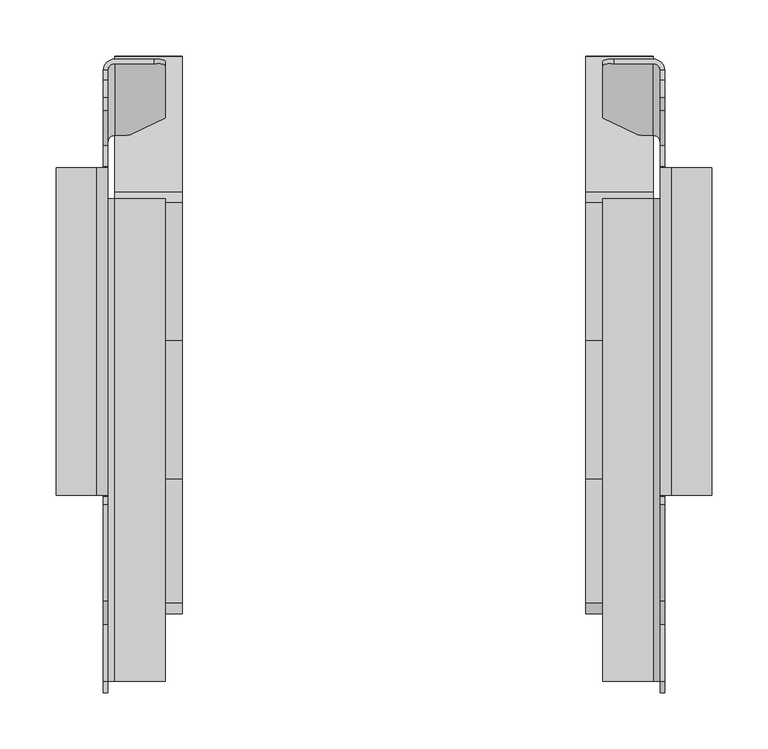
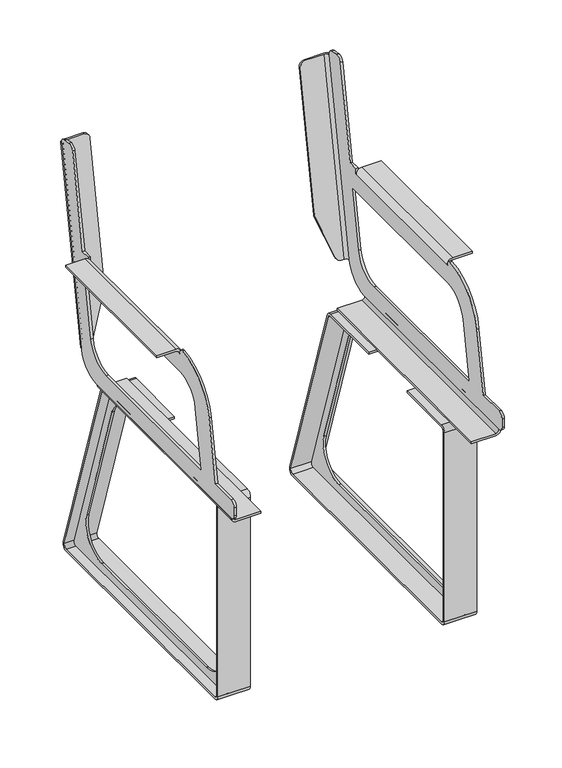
"""IFC4 building model written with IfcOpenShell, lengths in millimetres: furniture geometry, Roros Produkter - Trend - Chair - Armrests - 32974 : Roros Produkter - Trend - Chair - Armrests - 32974."""

from ifc_helpers import new_model, si_unit, point, frame, frame_2d, origin, place, context, project, spatial, polyline, circle_curve, trimmed, segment, composite_curve, outline, extrude, source, transform, mapped, element, save
from ifc_brep_helpers import plane_surface, cylinder_surface, revolved_surface, advanced_brep


def furniture_ebc10c41(model_context):
    return source(origin(), model_context, "Body", "SolidModel", [
        advanced_brep(
        [(-246.0, -257.3458129, 457.464), (-246.0, -236.7737044, 574.1342251), (-250.0, -236.7737044, 574.1342251), (-250.0, -257.3458129, 457.464), (-246.0, -307.8308404, 457.464), (-250.0, -307.8308404, 457.464), (-246.0, -317.8308404, 447.464), (-250.0, -317.8308404, 447.464), (-246.0, -317.8308404, 431.664), (-250.0, -317.8308404, 431.664), (-246.0, -307.8308404, 421.664), (-250.0, -307.8308404, 421.664), (-246.0, 121.742304, 421.664), (-250.0, 121.742304, 421.664), (-246.0, 123.242304, 421.664), (-250.0, 123.242304, 421.664), (-246.0, 171.5252579, 461.3391091), (-250.0, 171.5252579, 461.3391091), (-246.0, 171.7857301, 462.8163208), (-250.0, 171.7857301, 462.8163208), (-246.0, 227.5482115, 836.6487723), (-246.0, 235.6598072, 825.064213), (-250.0, 235.6598072, 825.064213), (-250.0, 227.5482115, 836.6487723), (-246.0, 211.988249, 839.3924135), (-250.0, 211.988249, 839.3924135), (-246.0, 200.4036897, 831.2808178), (-250.0, 200.4036897, 831.2808178), (-246.0, 169.0497871, 653.464), (-250.0, 169.0497871, 653.464), (-246.0, 150.5497871, 653.464), (-250.0, 150.5497871, 653.464), (-246.0, 150.5497871, 643.264), (-250.0, 150.5497871, 643.264), (-246.0, 149.0497871, 643.264), (-250.0, 149.0497871, 643.264), (-246.0, -143.7321601, 643.264), (-246.0, -142.2321601, 643.264), (-250.0, -142.2321601, 643.264), (-250.0, -143.7321601, 643.264), (-246.0, -143.7321601, 647.1509556), (-250.0, -143.7321601, 647.1509556), (-246.0, -150.2321601, 653.1300859), (-250.0, -150.2321601, 653.1300859), (-246.0, 160.938746, 607.464), (-246.0, -142.2321601, 607.464), (-250.0, -142.2321601, 607.464), (-250.0, 160.938746, 607.464), (-246.0, 141.775105, 498.7815911), (-250.0, 141.775105, 498.7815911), (-246.0, 92.5347173, 457.464), (-250.0, 92.5347173, 457.464), (-246.0, -210.6361888, 457.464), (-250.0, -210.6361888, 457.464), (-246.0, -191.4725478, 566.1464089), (-250.0, -191.4725478, 566.1464089), (-256.0, -142.2321601, 649.464), (-250.0, -142.2321601, 643.464), (-246.0, -142.2321601, 643.464), (-256.0, -142.2321601, 653.464), (-292.0, -142.2321601, 653.464), (-292.0, -142.2321601, 649.464), (-256.0, 149.0497871, 649.464), (-292.0, 149.0497871, 649.464), (-292.0, 149.0497871, 653.464), (-256.0, 149.0497871, 653.464), (-246.0, 149.0497871, 643.464), (-250.0, 149.0497871, 643.464), (-240.0, 245.7048463, 823.2930016), (-250.0, 235.8567688, 825.0294834), (-246.0, 235.8567688, 825.0294834), (-240.0, 241.7656153, 823.9875943), (-205.0, 241.7656153, 823.9875943), (-205.0, 245.7048463, 823.2930016), (-240.0, 177.8915382, 461.7397021), (-246.0, 171.9826917, 462.7815911), (-250.0, 171.9826917, 462.7815911), (-240.0, 181.8307692, 461.0451093), (-234.7989561, 181.8307692, 461.0451093), (-234.7989561, 177.8915382, 461.7397021), (-225.4034627, 179.0334251, 468.2156645), (-195.6045066, 193.2318427, 548.7388923), (-195.0, 193.8264376, 552.1110073), (-195.0, 240.0291335, 814.1395168), (-195.0, 197.7656686, 551.4164146), (-195.0, 243.9683646, 813.4449241), (-195.6045066, 197.1710737, 548.0442996), (-225.4034627, 182.9726561, 467.5210718)],
        [
            (0, 1),
            (1, 2),
            (2, 3),
            (3, 0),
            (4, 0),
            (3, 5),
            (5, 4),
            (6, 4, circle_curve(frame((-246.0, -307.8308404, 447.464), z_axis=(-1.0, 0.0, 0.0), x_axis=(0.0, -1.0, 0.0)), 10.0)),
            (5, 7, circle_curve(frame((-250.0, -307.8308404, 447.464), z_axis=(1.0, 0.0, 0.0), x_axis=(0.0, -1.0, 0.0)), 10.0)),
            (7, 6),
            (8, 6),
            (7, 9),
            (9, 8),
            (10, 8, circle_curve(frame((-246.0, -307.8308404, 431.664), z_axis=(-1.0, 0.0, 0.0), x_axis=(0.0, -0.7071067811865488, -0.7071067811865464)), 10.0)),
            (9, 11, circle_curve(frame((-250.0, -307.8308404, 431.664), z_axis=(1.0, 0.0, 0.0), x_axis=(0.0, -0.7071067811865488, -0.7071067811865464)), 10.0)),
            (11, 10),
            (12, 10),
            (11, 13),
            (13, 12),
            (14, 12),
            (13, 15),
            (15, 14),
            (16, 14, circle_curve(frame((-246.0, 122.6020398, 471.6599004), z_axis=(-1.0, 0.0, 0.0), x_axis=(0.0, -0.9784643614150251, 0.20641582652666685)), 50.0)),
            (15, 17, circle_curve(frame((-250.0, 122.6020398, 471.6599004), z_axis=(1.0, 0.0, 0.0), x_axis=(0.0, -0.9784643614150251, 0.20641582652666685)), 50.0)),
            (17, 16),
            (18, 16),
            (17, 19),
            (19, 18),
            (20, 21, circle_curve(frame((-246.0, 225.8117297, 826.8006948), z_axis=(-1.0, 0.0, 0.0), x_axis=(0.0, 0.8191520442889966, 0.5735764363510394)), 10.0)),
            (21, 22),
            (22, 23, circle_curve(frame((-250.0, 225.8117297, 826.8006948), z_axis=(1.0, 0.0, 0.0), x_axis=(0.0, 0.8191520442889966, 0.5735764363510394)), 10.0)),
            (23, 20),
            (24, 20),
            (23, 25),
            (25, 24),
            (26, 24, circle_curve(frame((-246.0, 210.2517672, 829.544336), z_axis=(-1.0, 0.0, 0.0), x_axis=(0.0, -0.9848077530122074, 0.17364817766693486)), 10.0)),
            (25, 27, circle_curve(frame((-250.0, 210.2517672, 829.544336), z_axis=(1.0, 0.0, 0.0), x_axis=(0.0, -0.9848077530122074, 0.17364817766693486)), 10.0)),
            (27, 26),
            (28, 26),
            (27, 29),
            (29, 28),
            (30, 28),
            (29, 31),
            (31, 30),
            (32, 30),
            (31, 33),
            (33, 32),
            (34, 32),
            (33, 35),
            (35, 34),
            (36, 37),
            (37, 38),
            (38, 39),
            (39, 36),
            (40, 36),
            (39, 41),
            (41, 40),
            (42, 40, circle_curve(frame((-246.0, -149.7321601, 647.1509556), z_axis=(-1.0, 0.0, 0.0), x_axis=(0.0, 0.6770032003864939, 0.7359800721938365)), 6.0)),
            (41, 43, circle_curve(frame((-250.0, -149.7321601, 647.1509556), z_axis=(1.0, 0.0, 0.0), x_axis=(0.0, 0.6770032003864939, 0.7359800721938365)), 6.0)),
            (43, 42),
            (1, 42, circle_curve(frame((-246.0, -142.2321601, 557.464), z_axis=(-1.0, 0.0, 0.0), x_axis=(0.0, -0.9848077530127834, 0.17364817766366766)), 96.0)),
            (43, 2, circle_curve(frame((-250.0, -142.2321601, 557.464), z_axis=(1.0, 0.0, 0.0), x_axis=(0.0, -0.9848077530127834, 0.17364817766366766)), 96.0)),
            (44, 45),
            (45, 46),
            (46, 47),
            (47, 44),
            (48, 44),
            (47, 49),
            (49, 48),
            (50, 48, circle_curve(frame((-246.0, 92.5347173, 507.464), z_axis=(1.0, 0.0, 0.0), x_axis=(0.0, -0.9848077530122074, 0.17364817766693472)), 50.0)),
            (49, 51, circle_curve(frame((-250.0, 92.5347173, 507.464), z_axis=(-1.0, 0.0, 0.0), x_axis=(0.0, -0.9848077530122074, 0.17364817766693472)), 50.0)),
            (51, 50),
            (52, 50),
            (51, 53),
            (53, 52),
            (54, 52),
            (53, 55),
            (55, 54),
            (45, 54, circle_curve(frame((-246.0, -142.2321601, 557.464), z_axis=(1.0, 0.0, 0.0), x_axis=(0.0, 0.984807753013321, -0.17364817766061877)), 50.0)),
            (55, 46, circle_curve(frame((-250.0, -142.2321601, 557.464), z_axis=(-1.0, 0.0, 0.0), x_axis=(0.0, 0.984807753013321, -0.17364817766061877)), 50.0)),
            (56, 57, circle_curve(frame((-256.0, -142.2321601, 643.464), z_axis=(0.0, 1.0, 0.0), x_axis=(1.0, 0.0, 0.0)), 6.0)),
            (57, 38),
            (37, 58),
            (58, 59, circle_curve(frame((-256.0, -142.2321601, 643.464), z_axis=(0.0, -1.0, 0.0), x_axis=(1.0, 0.0, 0.0)), 10.0)),
            (59, 60),
            (60, 61),
            (61, 56),
            (62, 63),
            (63, 64),
            (64, 65),
            (65, 66, circle_curve(frame((-256.0, 149.0497871, 643.464), z_axis=(0.0, 1.0, 0.0), x_axis=(1.0, 0.0, 0.0)), 10.0)),
            (66, 34),
            (35, 67),
            (67, 62, circle_curve(frame((-256.0, 149.0497871, 643.464), z_axis=(0.0, -1.0, 0.0), x_axis=(1.0, 0.0, 0.0)), 6.0)),
            (56, 62),
            (67, 57),
            (58, 66),
            (65, 59),
            (64, 60),
            (63, 61),
            (68, 69, circle_curve(frame((-240.0, 235.8567688, 825.0294834), z_axis=(0.0, 0.1736481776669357, 0.9848077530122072), x_axis=(0.0, 0.9848077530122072, -0.1736481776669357)), 10.0)),
            (69, 22),
            (21, 70),
            (70, 71, circle_curve(frame((-240.0, 235.8567688, 825.0294834), z_axis=(0.0, -0.1736481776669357, -0.9848077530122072), x_axis=(0.0, 0.9848077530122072, -0.1736481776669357)), 6.0)),
            (71, 72),
            (72, 73),
            (73, 68),
            (74, 75, circle_curve(frame((-240.0, 171.9826917, 462.7815911), z_axis=(0.0, 0.1736481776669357, 0.9848077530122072), x_axis=(0.0, 0.9848077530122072, -0.1736481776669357)), 6.0)),
            (75, 18),
            (19, 76),
            (76, 77, circle_curve(frame((-240.0, 171.9826917, 462.7815911), z_axis=(0.0, -0.1736481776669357, -0.9848077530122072), x_axis=(0.0, 0.9848077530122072, -0.1736481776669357)), 10.0)),
            (77, 78),
            (78, 79),
            (79, 74),
            (68, 77),
            (76, 69),
            (75, 70),
            (74, 71),
            (79, 80, circle_curve(frame((-234.7989561, 179.62802, 471.5877796), z_axis=(0.0, -0.9848077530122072, 0.1736481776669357), x_axis=(-1.0, 0.0, 0.0)), 10.0)),
            (80, 81),
            (81, 82, circle_curve(frame((-205.0, 193.8264376, 552.1110073), z_axis=(0.0, -0.9848077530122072, 0.1736481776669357), x_axis=(-1.0, 0.0, 0.0)), 10.0)),
            (82, 83),
            (83, 72, circle_curve(frame((-205.0, 240.0291335, 814.1395168), z_axis=(0.0, -0.9848077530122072, 0.1736481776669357), x_axis=(-1.0, 0.0, 0.0)), 10.0)),
            (82, 84),
            (84, 85),
            (85, 83),
            (73, 85, circle_curve(frame((-205.0, 243.9683646, 813.4449241), z_axis=(0.0, 0.9848077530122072, -0.1736481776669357), x_axis=(-1.0, 0.0, 0.0)), 10.0)),
            (84, 86, circle_curve(frame((-205.0, 197.7656686, 551.4164146), z_axis=(0.0, 0.9848077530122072, -0.1736481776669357), x_axis=(-1.0, 0.0, 0.0)), 10.0)),
            (86, 87),
            (87, 78, circle_curve(frame((-234.7989561, 183.567251, 470.8931869), z_axis=(0.0, 0.9848077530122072, -0.1736481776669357), x_axis=(-1.0, 0.0, 0.0)), 10.0)),
            (87, 80),
            (86, 81),
        ],
        [
            plane_surface(frame((-246.0, -236.7737044, 574.1342251), z_axis=(0.0, -0.9848077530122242, 0.17364817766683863), x_axis=(-1.0, 0.0, 0.0))),
            plane_surface(frame((-246.0, -257.3458129, 457.464), z_axis=(0.0, 0.0, 1.0), x_axis=(-1.0, 0.0, 0.0))),
            cylinder_surface(frame((-250.0, -307.8308404, 447.464), z_axis=(1.0, 0.0, 0.0), x_axis=(0.0, -1.0, 0.0)), 10.0),
            plane_surface(frame((-246.0, -317.8308404, 447.464), z_axis=(0.0, -1.0, 0.0), x_axis=(-1.0, 0.0, 0.0))),
            cylinder_surface(frame((-250.0, -307.8308404, 431.664), z_axis=(1.0, 0.0, 0.0), x_axis=(0.0, -0.7071067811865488, -0.7071067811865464)), 10.0),
            plane_surface(frame((-246.0, -307.8308404, 421.664), z_axis=(0.0, 0.0, -1.0), x_axis=(-1.0, 0.0, 0.0))),
            plane_surface(frame((-246.0, 121.742304, 421.664), z_axis=(0.0, 0.0, -1.0), x_axis=(-1.0, 0.0, 0.0))),
            cylinder_surface(frame((-250.0, 122.6020398, 471.6599004), z_axis=(1.0, 0.0, 0.0), x_axis=(0.0, -0.9784643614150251, 0.20641582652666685)), 50.0),
            plane_surface(frame((-246.0, 171.5252579, 461.3391091), z_axis=(0.0, 0.9848077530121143, -0.1736481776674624), x_axis=(-1.0, 0.0, 0.0))),
            cylinder_surface(frame((-250.0, 225.8117297, 826.8006948), z_axis=(1.0000000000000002, 0.0, 0.0), x_axis=(0.0, 0.8191520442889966, 0.5735764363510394)), 10.0),
            plane_surface(frame((-246.0, 227.5482115, 836.6487723), z_axis=(0.0, 0.1736481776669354, 0.9848077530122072), x_axis=(-1.0, 0.0, 0.0))),
            cylinder_surface(frame((-250.0, 210.2517672, 829.544336), z_axis=(1.0000000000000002, 0.0, 0.0), x_axis=(0.0, -0.9848077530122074, 0.17364817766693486)), 10.0),
            plane_surface(frame((-246.0, 200.4036897, 831.2808178), z_axis=(0.0, -0.9848077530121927, 0.17364817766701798), x_axis=(-1.0, 0.0, 0.0))),
            plane_surface(frame((-246.0, 169.0497871, 653.464), z_axis=(0.0, 0.0, 1.0), x_axis=(-1.0, 0.0, 0.0))),
            plane_surface(frame((-246.0, 150.5497871, 653.464), z_axis=(0.0, -1.0, 0.0), x_axis=(-1.0, 0.0, 0.0))),
            plane_surface(frame((-246.0, 150.5497871, 643.264), z_axis=(0.0, 0.0, 1.0), x_axis=(-1.0, 0.0, 0.0))),
            plane_surface(frame((-246.0, -142.2321601, 643.264), z_axis=(0.0, 0.0, 1.0), x_axis=(-1.0, 0.0, 0.0))),
            plane_surface(frame((-246.0, -143.7321601, 643.264), z_axis=(0.0, 1.0, 0.0), x_axis=(-1.0, 0.0, 0.0))),
            cylinder_surface(frame((-250.0, -149.7321601, 647.1509556), z_axis=(1.0, 0.0, 0.0), x_axis=(0.0, 0.6770032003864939, 0.7359800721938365)), 6.0),
            cylinder_surface(frame((-250.0, -142.2321601, 557.464), z_axis=(1.0000000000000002, 0.0, 0.0), x_axis=(0.0, -0.9848077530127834, 0.17364817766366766)), 96.0),
            plane_surface(frame((-246.0, -142.2321601, 607.464), z_axis=(0.0, 0.0, -1.0), x_axis=(-1.0, 0.0, 0.0))),
            plane_surface(frame((-246.0, 160.938746, 607.464), z_axis=(0.0, -0.9848077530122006, 0.17364817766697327), x_axis=(-1.0, 0.0, 0.0))),
            revolved_surface(polyline([(-250.0, 43.29432964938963, 516.1464088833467), (-246.0, 43.29432964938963, 516.1464088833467)]), (658.0, 92.5347173, 507.464), (-1.0, 0.0, 0.0)),
            plane_surface(frame((-246.0, 92.5347173, 457.464), z_axis=(0.0, 0.0, 1.0), x_axis=(-1.0, 0.0, 0.0))),
            plane_surface(frame((-246.0, -210.6361888, 457.464), z_axis=(0.0, 0.984807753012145, -0.1736481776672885), x_axis=(-1.0, 0.0, 0.0))),
            revolved_surface(polyline([(-250.00000000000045, -92.99177244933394, 548.7815911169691), (-246.00000000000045, -92.99177244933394, 548.7815911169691)]), (658.0, -142.2321601, 557.464), (-1.0000000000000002, 0.0, 0.0)),
            plane_surface(frame((-250.0, -142.2321601, 643.464), z_axis=(0.0, -1.0, 0.0), x_axis=(0.0, 0.0, -1.0))),
            plane_surface(frame((-250.0, 149.0497871, 643.464), z_axis=(0.0, 1.0, 0.0), x_axis=(0.0, 0.0, 1.0))),
            revolved_surface(polyline([(-250.0, 149.0497871, 643.464), (-250.0, -142.2321601, 643.464)]), (-256.0, 149.0497871, 643.464), (0.0, 1.0, 0.0)),
            cylinder_surface(frame((-256.0, 149.0497871, 643.464), z_axis=(0.0, -1.0, 0.0), x_axis=(1.0, 0.0, 0.0)), 10.0),
            plane_surface(frame((-256.0, -142.2321601, 653.464), z_axis=(0.0, 0.0, 1.0), x_axis=(0.0, 1.0, 0.0))),
            plane_surface(frame((-292.0, -142.2321601, 653.464), z_axis=(-1.0, 0.0, 0.0), x_axis=(0.0, 1.0, 0.0))),
            plane_surface(frame((-292.0, -142.2321601, 649.464), z_axis=(0.0, 0.0, -1.0), x_axis=(0.0, 1.0, 0.0))),
            plane_surface(frame((-240.0, 245.7048463, 823.2930016), z_axis=(0.0, 0.17364817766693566, 0.9848077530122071), x_axis=(-1.0, 0.0, 0.0))),
            plane_surface(frame((-240.0, 181.8307692, 461.0451093), z_axis=(0.0, -0.17364817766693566, -0.9848077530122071), x_axis=(1.0, 0.0, 0.0))),
            cylinder_surface(frame((-240.0, 171.9826917, 462.7815911), z_axis=(0.0, 0.1736481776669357, 0.9848077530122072), x_axis=(0.0, 0.9848077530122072, -0.1736481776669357)), 10.0),
            plane_surface(frame((-250.0, 235.8567688, 825.0294834), z_axis=(-1.0, 0.0, 0.0), x_axis=(0.0, -0.17364817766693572, -0.9848077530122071))),
            plane_surface(frame((-246.0, 219.7091835, 827.8767384), z_axis=(1.0000000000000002, 0.0, 0.0), x_axis=(0.0, -0.1736481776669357, -0.9848077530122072))),
            revolved_surface(polyline([(-240.0, 177.89153821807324, 461.7397020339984), (-240.0, 241.76561533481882, 823.9875943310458)]), (-240.0, 171.9826917, 462.7815911), (0.0, -0.1736481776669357, -0.9848077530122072)),
            plane_surface(frame((-240.0, 241.7656153, 823.9875943), z_axis=(0.0, -0.9848077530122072, 0.1736481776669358), x_axis=(0.0, -0.1736481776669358, -0.9848077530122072))),
            plane_surface(frame((-195.0, 241.7656153, 823.9875943), z_axis=(1.0000000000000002, 0.0, 0.0), x_axis=(0.0, -0.1736481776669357, -0.9848077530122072))),
            plane_surface(frame((-195.0, 245.7048463, 823.2930016), z_axis=(0.0, 0.9848077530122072, -0.1736481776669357), x_axis=(0.0, -0.1736481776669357, -0.9848077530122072))),
            cylinder_surface(frame((-234.7989561, 173.5222119, 472.6643983), z_axis=(0.0, -0.9848077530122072, 0.1736481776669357), x_axis=(-1.0, 0.0, 0.0)), 10.0),
            plane_surface(frame((-225.4034627, 198.6719598, 464.752861), z_axis=(0.9395493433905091, -0.05945948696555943, -0.3372115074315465), x_axis=(0.0, -0.984807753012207, 0.1736481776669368))),
            cylinder_surface(frame((-205.0, 187.7206295, 553.187626), z_axis=(0.0, -0.9848077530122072, 0.1736481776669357), x_axis=(-1.0, 0.0, 0.0)), 10.0),
            cylinder_surface(frame((-205.0, 233.9233255, 815.2161355), z_axis=(0.0, -0.9848077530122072, 0.1736481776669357), x_axis=(-1.0, 0.0, 0.0)), 10.0),
        ],
        [
            (0, [[1, 2, 3, 4]]),
            (1, [[5, -4, 6, 7]]),
            (2, [[8, -7, 9, 10]]),
            (3, [[11, -10, 12, 13]]),
            (4, [[14, -13, 15, 16]]),
            (5, [[17, -16, 18, 19]]),
            (6, [[20, -19, 21, 22]]),
            (7, [[23, -22, 24, 25]]),
            (8, [[26, -25, 27, 28]]),
            (9, [[29, 30, 31, 32]]),
            (10, [[33, -32, 34, 35]]),
            (11, [[36, -35, 37, 38]]),
            (12, [[39, -38, 40, 41]]),
            (13, [[42, -41, 43, 44]]),
            (14, [[45, -44, 46, 47]]),
            (15, [[48, -47, 49, 50]]),
            (16, [[51, 52, 53, 54]]),
            (17, [[55, -54, 56, 57]]),
            (18, [[58, -57, 59, 60]]),
            (19, [[61, -60, 62, -2]]),
            (20, [[63, 64, 65, 66]]),
            (21, [[67, -66, 68, 69]]),
            (22, [[70, -69, 71, 72]]),
            (23, [[73, -72, 74, 75]]),
            (24, [[76, -75, 77, 78]]),
            (25, [[79, -78, 80, -64]]),
            (26, [[81, 82, -52, 83, 84, 85, 86, 87]]),
            (27, [[88, 89, 90, 91, 92, -50, 93, 94]]),
            (28, [[-81, 95, -94, 96]]),
            (29, [[-84, 97, -91, 98]]),
            (30, [[-85, -98, -90, 99]]),
            (31, [[-86, -99, -89, 100]]),
            (32, [[-87, -100, -88, -95]]),
            (33, [[101, 102, -30, 103, 104, 105, 106, 107]]),
            (34, [[108, 109, -28, 110, 111, 112, 113, 114]]),
            (35, [[-101, 115, -111, 116]]),
            (36, [[-116, -110, -27, -24, -21, -18, -15, -12, -9, -6, -3, -62, -59, -56, -53, -82, -96, -93, -49, -46, -43, -40, -37, -34, -31, -102], [-80, -77, -74, -71, -68, -65]]),
            (37, [[117, -103, -29, -33, -36, -39, -42, -45, -48, -92, -97, -83, -51, -55, -58, -61, -1, -5, -8, -11, -14, -17, -20, -23, -26, -109], [-63, -67, -70, -73, -76, -79]]),
            (38, [[-104, -117, -108, 118]]),
            (39, [[-118, -114, 119, 120, 121, 122, 123, -105]]),
            (40, [[-122, 124, 125, 126]]),
            (41, [[-115, -107, 127, -125, 128, 129, 130, -112]]),
            (42, [[131, -119, -113, -130]]),
            (43, [[-131, -129, 132, -120]]),
            (44, [[-132, -128, -124, -121]]),
            (45, [[-106, -123, -126, -127]]),
        ],
    ),
        advanced_brep(
        [(245.4, -236.7737044, 574.1342251), (245.4, -257.3458129, 457.464), (249.4, -257.3458129, 457.464), (249.4, -236.7737044, 574.1342251), (245.4, -307.8308404, 457.464), (249.4, -307.8308404, 457.464), (245.4, -317.8308404, 447.464), (249.4, -317.8308404, 447.464), (245.4, -317.8308404, 431.664), (249.4, -317.8308404, 431.664), (245.4, -307.8308404, 421.664), (249.4, -307.8308404, 421.664), (245.4, 121.742304, 421.664), (249.4, 121.742304, 421.664), (245.4, 123.242304, 421.664), (249.4, 123.242304, 421.664), (245.4, 171.5252579, 461.3391091), (249.4, 171.5252579, 461.3391091), (245.4, 171.7857301, 462.8163208), (249.4, 171.7857301, 462.8163208), (245.4, 235.6598072, 825.064213), (245.4, 227.5482115, 836.6487723), (249.4, 227.5482115, 836.6487723), (249.4, 235.6598072, 825.064213), (245.4, 211.988249, 839.3924135), (249.4, 211.988249, 839.3924135), (245.4, 200.4036897, 831.2808178), (249.4, 200.4036897, 831.2808178), (245.4, 169.0497871, 653.464), (249.4, 169.0497871, 653.464), (245.4, 150.5497871, 653.464), (249.4, 150.5497871, 653.464), (245.4, 150.5497871, 643.264), (249.4, 150.5497871, 643.264), (245.4, 149.0497871, 643.264), (249.4, 149.0497871, 643.264), (245.4, -142.2321601, 643.264), (245.4, -143.7321601, 643.264), (249.4, -143.7321601, 643.264), (249.4, -142.2321601, 643.264), (245.4, -143.7321601, 647.1509556), (249.4, -143.7321601, 647.1509556), (245.4, -150.2321601, 653.1300859), (249.4, -150.2321601, 653.1300859), (245.4, -142.2321601, 607.464), (245.4, 160.938746, 607.464), (249.4, 160.938746, 607.464), (249.4, -142.2321601, 607.464), (245.4, 141.775105, 498.7815911), (249.4, 141.775105, 498.7815911), (245.4, 92.5347173, 457.464), (249.4, 92.5347173, 457.464), (245.4, -210.6361888, 457.464), (249.4, -210.6361888, 457.464), (245.4, -191.4725478, 566.1464089), (249.4, -191.4725478, 566.1464089), (255.4, -142.2321601, 649.464), (291.4, -142.2321601, 649.464), (291.4, -142.2321601, 653.464), (255.4, -142.2321601, 653.464), (245.4, -142.2321601, 643.464), (249.4, -142.2321601, 643.464), (255.4, 149.0497871, 649.464), (249.4, 149.0497871, 643.464), (245.4, 149.0497871, 643.464), (255.4, 149.0497871, 653.464), (291.4, 149.0497871, 653.464), (291.4, 149.0497871, 649.464), (239.4, 241.7656153, 823.9875943), (245.4, 235.8567688, 825.0294834), (249.4, 235.8567688, 825.0294834), (239.4, 245.7048463, 823.2930016), (204.4, 245.7048463, 823.2930016), (204.4, 241.7656153, 823.9875943), (239.4, 181.8307692, 461.0451093), (249.4, 171.9826917, 462.7815911), (245.4, 171.9826917, 462.7815911), (239.4, 177.8915382, 461.7397021), (234.1989561, 177.8915382, 461.7397021), (234.1989561, 181.8307692, 461.0451093), (194.4, 240.0291335, 814.1395168), (194.4, 193.8264376, 552.1110073), (195.0045066, 193.2318427, 548.7388923), (224.8034627, 179.0334251, 468.2156645), (194.4, 243.9683646, 813.4449241), (194.4, 197.7656686, 551.4164146), (224.8034627, 182.9726561, 467.5210718), (195.0045066, 197.1710737, 548.0442996)],
        [
            (0, 1),
            (1, 2),
            (2, 3),
            (3, 0),
            (1, 4),
            (4, 5),
            (5, 2),
            (4, 6, circle_curve(frame((245.4, -307.8308404, 447.464), z_axis=(1.0, 0.0, 0.0), x_axis=(0.0, -1.0, 0.0)), 10.0)),
            (6, 7),
            (7, 5, circle_curve(frame((249.4, -307.8308404, 447.464), z_axis=(-1.0, 0.0, 0.0), x_axis=(0.0, -1.0, 0.0)), 10.0)),
            (6, 8),
            (8, 9),
            (9, 7),
            (8, 10, circle_curve(frame((245.4, -307.8308404, 431.664), z_axis=(1.0, 0.0, 0.0), x_axis=(0.0, -0.7071067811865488, -0.7071067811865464)), 10.0)),
            (10, 11),
            (11, 9, circle_curve(frame((249.4, -307.8308404, 431.664), z_axis=(-1.0, 0.0, 0.0), x_axis=(0.0, -0.7071067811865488, -0.7071067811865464)), 10.0)),
            (10, 12),
            (12, 13),
            (13, 11),
            (12, 14),
            (14, 15),
            (15, 13),
            (14, 16, circle_curve(frame((245.4, 122.6020398, 471.6599004), z_axis=(1.0, 0.0, 0.0), x_axis=(0.0, -0.9784643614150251, 0.20641582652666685)), 50.0)),
            (16, 17),
            (17, 15, circle_curve(frame((249.4, 122.6020398, 471.6599004), z_axis=(-1.0, 0.0, 0.0), x_axis=(0.0, -0.9784643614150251, 0.20641582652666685)), 50.0)),
            (16, 18),
            (18, 19),
            (19, 17),
            (20, 21, circle_curve(frame((245.4, 225.8117297, 826.8006948), z_axis=(1.0, 0.0, 0.0), x_axis=(0.0, 0.8191520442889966, 0.5735764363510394)), 10.0)),
            (21, 22),
            (22, 23, circle_curve(frame((249.4, 225.8117297, 826.8006948), z_axis=(-1.0, 0.0, 0.0), x_axis=(0.0, 0.8191520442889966, 0.5735764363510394)), 10.0)),
            (23, 20),
            (21, 24),
            (24, 25),
            (25, 22),
            (24, 26, circle_curve(frame((245.4, 210.2517672, 829.544336), z_axis=(1.0, 0.0, 0.0), x_axis=(0.0, -0.9848077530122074, 0.17364817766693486)), 10.0)),
            (26, 27),
            (27, 25, circle_curve(frame((249.4, 210.2517672, 829.544336), z_axis=(-1.0, 0.0, 0.0), x_axis=(0.0, -0.9848077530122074, 0.17364817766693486)), 10.0)),
            (26, 28),
            (28, 29),
            (29, 27),
            (28, 30),
            (30, 31),
            (31, 29),
            (30, 32),
            (32, 33),
            (33, 31),
            (32, 34),
            (34, 35),
            (35, 33),
            (36, 37),
            (37, 38),
            (38, 39),
            (39, 36),
            (37, 40),
            (40, 41),
            (41, 38),
            (40, 42, circle_curve(frame((245.4, -149.7321601, 647.1509556), z_axis=(1.0, 0.0, 0.0), x_axis=(0.0, 0.6770032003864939, 0.7359800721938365)), 6.0)),
            (42, 43),
            (43, 41, circle_curve(frame((249.4, -149.7321601, 647.1509556), z_axis=(-1.0, 0.0, 0.0), x_axis=(0.0, 0.6770032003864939, 0.7359800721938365)), 6.0)),
            (42, 0, circle_curve(frame((245.4, -142.2321601, 557.464), z_axis=(1.0, 0.0, 0.0), x_axis=(0.0, -0.9848077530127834, 0.17364817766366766)), 96.0)),
            (3, 43, circle_curve(frame((249.4, -142.2321601, 557.464), z_axis=(-1.0, 0.0, 0.0), x_axis=(0.0, -0.9848077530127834, 0.17364817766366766)), 96.0)),
            (44, 45),
            (45, 46),
            (46, 47),
            (47, 44),
            (45, 48),
            (48, 49),
            (49, 46),
            (48, 50, circle_curve(frame((245.4, 92.5347173, 507.464), z_axis=(-1.0, 0.0, 0.0), x_axis=(0.0, -0.9848077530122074, 0.17364817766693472)), 50.0)),
            (50, 51),
            (51, 49, circle_curve(frame((249.4, 92.5347173, 507.464), z_axis=(1.0, 0.0, 0.0), x_axis=(0.0, -0.9848077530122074, 0.17364817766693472)), 50.0)),
            (50, 52),
            (52, 53),
            (53, 51),
            (52, 54),
            (54, 55),
            (55, 53),
            (54, 44, circle_curve(frame((245.4, -142.2321601, 557.464), z_axis=(-1.0, 0.0, 0.0), x_axis=(0.0, 0.984807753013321, -0.17364817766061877)), 50.0)),
            (47, 55, circle_curve(frame((249.4, -142.2321601, 557.464), z_axis=(1.0, 0.0, 0.0), x_axis=(0.0, 0.984807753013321, -0.17364817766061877)), 50.0)),
            (56, 57),
            (57, 58),
            (58, 59),
            (59, 60, circle_curve(frame((255.4, -142.2321601, 643.464), z_axis=(0.0, -1.0, 0.0), x_axis=(-1.0, 0.0, 0.0)), 10.0)),
            (60, 36),
            (39, 61),
            (61, 56, circle_curve(frame((255.4, -142.2321601, 643.464), z_axis=(0.0, 1.0, 0.0), x_axis=(-1.0, 0.0, 0.0)), 6.0)),
            (62, 63, circle_curve(frame((255.4, 149.0497871, 643.464), z_axis=(0.0, -1.0, 0.0), x_axis=(-1.0, 0.0, 0.0)), 6.0)),
            (63, 35),
            (34, 64),
            (64, 65, circle_curve(frame((255.4, 149.0497871, 643.464), z_axis=(0.0, 1.0, 0.0), x_axis=(-1.0, 0.0, 0.0)), 10.0)),
            (65, 66),
            (66, 67),
            (67, 62),
            (61, 63),
            (62, 56),
            (59, 65),
            (64, 60),
            (58, 66),
            (57, 67),
            (68, 69, circle_curve(frame((239.4, 235.8567688, 825.0294834), z_axis=(0.0, -0.1736481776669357, -0.9848077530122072), x_axis=(0.0, 0.9848077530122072, -0.1736481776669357)), 6.0)),
            (69, 20),
            (23, 70),
            (70, 71, circle_curve(frame((239.4, 235.8567688, 825.0294834), z_axis=(0.0, 0.1736481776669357, 0.9848077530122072), x_axis=(0.0, 0.9848077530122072, -0.1736481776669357)), 10.0)),
            (71, 72),
            (72, 73),
            (73, 68),
            (74, 75, circle_curve(frame((239.4, 171.9826917, 462.7815911), z_axis=(0.0, -0.1736481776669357, -0.9848077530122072), x_axis=(0.0, 0.9848077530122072, -0.1736481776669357)), 10.0)),
            (75, 19),
            (18, 76),
            (76, 77, circle_curve(frame((239.4, 171.9826917, 462.7815911), z_axis=(0.0, 0.1736481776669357, 0.9848077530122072), x_axis=(0.0, 0.9848077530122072, -0.1736481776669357)), 6.0)),
            (77, 78),
            (78, 79),
            (79, 74),
            (70, 75),
            (74, 71),
            (69, 76),
            (68, 77),
            (73, 80, circle_curve(frame((204.4, 240.0291335, 814.1395168), z_axis=(0.0, -0.9848077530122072, 0.1736481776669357), x_axis=(1.0, 0.0, 0.0)), 10.0)),
            (80, 81),
            (81, 82, circle_curve(frame((204.4, 193.8264376, 552.1110073), z_axis=(0.0, -0.9848077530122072, 0.1736481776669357), x_axis=(1.0, 0.0, 0.0)), 10.0)),
            (82, 83),
            (83, 78, circle_curve(frame((234.1989561, 179.62802, 471.5877796), z_axis=(0.0, -0.9848077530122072, 0.1736481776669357), x_axis=(1.0, 0.0, 0.0)), 10.0)),
            (80, 84),
            (84, 85),
            (85, 81),
            (79, 86, circle_curve(frame((234.1989561, 183.567251, 470.8931869), z_axis=(0.0, 0.9848077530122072, -0.1736481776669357), x_axis=(1.0, 0.0, 0.0)), 10.0)),
            (86, 87),
            (87, 85, circle_curve(frame((204.4, 197.7656686, 551.4164146), z_axis=(0.0, 0.9848077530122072, -0.1736481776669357), x_axis=(1.0, 0.0, 0.0)), 10.0)),
            (84, 72, circle_curve(frame((204.4, 243.9683646, 813.4449241), z_axis=(0.0, 0.9848077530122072, -0.1736481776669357), x_axis=(1.0, 0.0, 0.0)), 10.0)),
            (83, 86),
            (82, 87),
        ],
        [
            plane_surface(frame((245.4, -257.3458129, 457.464), z_axis=(0.0, -0.9848077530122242, 0.17364817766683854), x_axis=(1.0, 0.0, 0.0))),
            plane_surface(frame((245.4, -307.8308404, 457.464), z_axis=(0.0, 0.0, 1.0), x_axis=(1.0, 0.0, 0.0))),
            cylinder_surface(frame((249.4, -307.8308404, 447.464), z_axis=(-1.0, 0.0, 0.0), x_axis=(0.0, -1.0, 0.0)), 10.0),
            plane_surface(frame((245.4, -317.8308404, 431.664), z_axis=(0.0, -1.0, 0.0), x_axis=(1.0, 0.0, 0.0))),
            cylinder_surface(frame((249.4, -307.8308404, 431.664), z_axis=(-1.0, 0.0, 0.0), x_axis=(0.0, -0.7071067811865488, -0.7071067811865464)), 10.0),
            plane_surface(frame((245.4, 121.742304, 421.664), z_axis=(0.0, 0.0, -1.0), x_axis=(1.0, 0.0, 0.0))),
            plane_surface(frame((245.4, 123.242304, 421.664), z_axis=(0.0, 0.0, -1.0), x_axis=(1.0, 0.0, 0.0))),
            cylinder_surface(frame((249.4, 122.6020398, 471.6599004), z_axis=(-1.0, 0.0, 0.0), x_axis=(0.0, -0.9784643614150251, 0.20641582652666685)), 50.0),
            plane_surface(frame((245.4, 171.7857301, 462.8163208), z_axis=(0.0, 0.9848077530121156, -0.1736481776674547), x_axis=(1.0, 0.0, 0.0))),
            cylinder_surface(frame((249.4, 225.8117297, 826.8006948), z_axis=(-1.0000000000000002, 0.0, 0.0), x_axis=(0.0, 0.8191520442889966, 0.5735764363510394)), 10.0),
            plane_surface(frame((245.4, 211.988249, 839.3924135), z_axis=(0.0, 0.1736481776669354, 0.9848077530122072), x_axis=(1.0, 0.0, 0.0))),
            cylinder_surface(frame((249.4, 210.2517672, 829.544336), z_axis=(-1.0000000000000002, 0.0, 0.0), x_axis=(0.0, -0.9848077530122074, 0.17364817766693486)), 10.0),
            plane_surface(frame((245.4, 169.0497871, 653.464), z_axis=(0.0, -0.9848077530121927, 0.1736481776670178), x_axis=(1.0, 0.0, 0.0))),
            plane_surface(frame((245.4, 150.5497871, 653.464), z_axis=(0.0, 0.0, 1.0), x_axis=(1.0, 0.0, 0.0))),
            plane_surface(frame((245.4, 150.5497871, 643.264), z_axis=(0.0, -1.0, 0.0), x_axis=(1.0, 0.0, 0.0))),
            plane_surface(frame((245.4, 149.0497871, 643.264), z_axis=(0.0, 0.0, 1.0), x_axis=(1.0, 0.0, 0.0))),
            plane_surface(frame((245.4, -143.7321601, 643.264), z_axis=(0.0, 0.0, 1.0), x_axis=(1.0, 0.0, 0.0))),
            plane_surface(frame((245.4, -143.7321601, 647.1509556), z_axis=(0.0, 1.0, 0.0), x_axis=(1.0, 0.0, 0.0))),
            cylinder_surface(frame((249.4, -149.7321601, 647.1509556), z_axis=(-1.0, 0.0, 0.0), x_axis=(0.0, 0.6770032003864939, 0.7359800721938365)), 6.0),
            cylinder_surface(frame((249.4, -142.2321601, 557.464), z_axis=(-1.0000000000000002, 0.0, 0.0), x_axis=(0.0, -0.9848077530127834, 0.17364817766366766)), 96.0),
            plane_surface(frame((245.4, 160.938746, 607.464), z_axis=(0.0, 0.0, -1.0), x_axis=(1.0, 0.0, 0.0))),
            plane_surface(frame((245.4, 141.775105, 498.7815911), z_axis=(0.0, -0.9848077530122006, 0.17364817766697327), x_axis=(1.0, 0.0, 0.0))),
            revolved_surface(polyline([(249.39999999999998, 43.29432964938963, 516.1464088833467), (245.39999999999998, 43.29432964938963, 516.1464088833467)]), (-658.6, 92.5347173, 507.464), (1.0, 0.0, 0.0)),
            plane_surface(frame((245.4, -210.6361888, 457.464), z_axis=(0.0, 0.0, 1.0), x_axis=(1.0, 0.0, 0.0))),
            plane_surface(frame((245.4, -191.4725478, 566.1464089), z_axis=(0.0, 0.984807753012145, -0.17364817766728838), x_axis=(1.0, 0.0, 0.0))),
            revolved_surface(polyline([(249.40000000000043, -92.99177244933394, 548.7815911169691), (245.40000000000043, -92.99177244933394, 548.7815911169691)]), (-658.6, -142.2321601, 557.464), (1.0000000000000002, 0.0, 0.0)),
            plane_surface(frame((291.4, -142.2321601, 649.464), z_axis=(0.0, -1.0, 0.0), x_axis=(1.0, 0.0, 0.0))),
            plane_surface(frame((291.4, 149.0497871, 649.464), z_axis=(0.0, 1.0, 0.0), x_axis=(-1.0, 0.0, 0.0))),
            revolved_surface(polyline([(249.4, 149.0497871, 643.464), (249.4, -142.2321601, 643.464)]), (255.4, 149.0497871, 643.464), (0.0, 1.0, 0.0)),
            cylinder_surface(frame((255.4, 149.0497871, 643.464), z_axis=(0.0, -1.0, 0.0), x_axis=(-1.0, 0.0, 0.0)), 10.0),
            plane_surface(frame((291.4, -142.2321601, 653.464), z_axis=(0.0, 0.0, 1.0), x_axis=(0.0, 1.0, 0.0))),
            plane_surface(frame((291.4, -142.2321601, 649.464), z_axis=(1.0, 0.0, 0.0), x_axis=(0.0, 1.0, 0.0))),
            plane_surface(frame((255.4, -142.2321601, 649.464), z_axis=(0.0, 0.0, -1.0), x_axis=(0.0, 1.0, 0.0))),
            plane_surface(frame((194.4, 245.7048463, 823.2930016), z_axis=(0.0, 0.1736481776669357, 0.9848077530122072), x_axis=(-1.0, 0.0, 0.0))),
            plane_surface(frame((194.4, 181.8307692, 461.0451093), z_axis=(0.0, -0.1736481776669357, -0.9848077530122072), x_axis=(1.0, 0.0, 0.0))),
            cylinder_surface(frame((239.4, 171.9826917, 462.7815911), z_axis=(0.0, 0.1736481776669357, 0.9848077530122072), x_axis=(0.0, 0.9848077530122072, -0.1736481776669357)), 10.0),
            plane_surface(frame((249.4, 219.7091835, 827.8767384), z_axis=(1.0000000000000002, 0.0, 0.0), x_axis=(0.0, -0.17364817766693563, -0.9848077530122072))),
            plane_surface(frame((245.4, 235.8567688, 825.0294834), z_axis=(-1.0000000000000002, 0.0, 0.0), x_axis=(0.0, -0.1736481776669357, -0.9848077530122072))),
            revolved_surface(polyline([(239.4, 177.89153821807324, 461.7397020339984), (239.4, 241.76561533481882, 823.9875943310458)]), (239.4, 171.9826917, 462.7815911), (0.0, -0.1736481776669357, -0.9848077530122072)),
            plane_surface(frame((194.4, 241.7656153, 823.9875943), z_axis=(0.0, -0.9848077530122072, 0.17364817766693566), x_axis=(0.0, -0.17364817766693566, -0.9848077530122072))),
            plane_surface(frame((194.4, 245.7048463, 823.2930016), z_axis=(-1.0000000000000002, 0.0, 0.0), x_axis=(0.0, -0.17364817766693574, -0.9848077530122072))),
            plane_surface(frame((239.4, 245.7048463, 823.2930016), z_axis=(0.0, 0.9848077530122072, -0.17364817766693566), x_axis=(0.0, -0.17364817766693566, -0.9848077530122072))),
            cylinder_surface(frame((234.1989561, 173.5222119, 472.6643983), z_axis=(0.0, -0.9848077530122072, 0.1736481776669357), x_axis=(1.0, 0.0, 0.0)), 10.0),
            plane_surface(frame((195.0045066, 212.8703774, 545.2760887), z_axis=(-0.9395493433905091, -0.059459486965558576, -0.3372115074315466), x_axis=(0.0, -0.9848077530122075, 0.1736481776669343))),
            cylinder_surface(frame((204.4, 187.7206295, 553.187626), z_axis=(0.0, -0.9848077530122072, 0.1736481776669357), x_axis=(1.0, 0.0, 0.0)), 10.0),
            cylinder_surface(frame((204.4, 233.9233255, 815.2161355), z_axis=(0.0, -0.9848077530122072, 0.1736481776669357), x_axis=(1.0, 0.0, 0.0)), 10.0),
        ],
        [
            (0, [[1, 2, 3, 4]]),
            (1, [[5, 6, 7, -2]]),
            (2, [[8, 9, 10, -6]]),
            (3, [[11, 12, 13, -9]]),
            (4, [[14, 15, 16, -12]]),
            (5, [[17, 18, 19, -15]]),
            (6, [[20, 21, 22, -18]]),
            (7, [[23, 24, 25, -21]]),
            (8, [[26, 27, 28, -24]]),
            (9, [[29, 30, 31, 32]]),
            (10, [[33, 34, 35, -30]]),
            (11, [[36, 37, 38, -34]]),
            (12, [[39, 40, 41, -37]]),
            (13, [[42, 43, 44, -40]]),
            (14, [[45, 46, 47, -43]]),
            (15, [[48, 49, 50, -46]]),
            (16, [[51, 52, 53, 54]]),
            (17, [[55, 56, 57, -52]]),
            (18, [[58, 59, 60, -56]]),
            (19, [[61, -4, 62, -59]]),
            (20, [[63, 64, 65, 66]]),
            (21, [[67, 68, 69, -64]]),
            (22, [[70, 71, 72, -68]]),
            (23, [[73, 74, 75, -71]]),
            (24, [[76, 77, 78, -74]]),
            (25, [[79, -66, 80, -77]]),
            (26, [[81, 82, 83, 84, 85, -54, 86, 87]]),
            (27, [[88, 89, -49, 90, 91, 92, 93, 94]]),
            (28, [[-87, 95, -88, 96]]),
            (29, [[-84, 97, -91, 98]]),
            (30, [[-83, 99, -92, -97]]),
            (31, [[-82, 100, -93, -99]]),
            (32, [[-81, -96, -94, -100]]),
            (33, [[101, 102, -32, 103, 104, 105, 106, 107]]),
            (34, [[108, 109, -27, 110, 111, 112, 113, 114]]),
            (35, [[-104, 115, -108, 116]]),
            (36, [[-115, -103, -31, -35, -38, -41, -44, -47, -50, -89, -95, -86, -53, -57, -60, -62, -3, -7, -10, -13, -16, -19, -22, -25, -28, -109], [-65, -69, -72, -75, -78, -80]]),
            (37, [[117, -110, -26, -23, -20, -17, -14, -11, -8, -5, -1, -61, -58, -55, -51, -85, -98, -90, -48, -45, -42, -39, -36, -33, -29, -102], [-79, -76, -73, -70, -67, -63]]),
            (38, [[-101, 118, -111, -117]]),
            (39, [[-118, -107, 119, 120, 121, 122, 123, -112]]),
            (40, [[-120, 124, 125, 126]]),
            (41, [[-116, -114, 127, 128, 129, -125, 130, -105]]),
            (42, [[131, -127, -113, -123]]),
            (43, [[-131, -122, 132, -128]]),
            (44, [[-132, -121, -126, -129]]),
            (45, [[-106, -130, -124, -119]]),
        ],
    ),
        extrude(outline(composite_curve([segment(polyline([(428.7988272, 245.4), (421.464, 245.4)]), True, "CONTINUOUS"), segment(trimmed(circle_curve(frame_2d((421.464, 239.4)), 6.0), [point((421.464, 245.4))], [point((415.464, 239.4))], True, "CARTESIAN"), True, "CONTINUOUS"), segment(polyline([(415.464, 239.4), (415.464, 194.4), (411.464, 194.4), (411.464, 239.4)]), True, "CONTINUOUS"), segment(trimmed(circle_curve(frame_2d((421.464, 239.4)), 10.0), [point((411.464, 239.4))], [point((421.464, 249.4))], False, "CARTESIAN"), True, "CONTINUOUS"), segment(polyline([(421.464, 249.4), (428.7988272, 249.4), (428.7988272, 245.4)]), True, "CONTINUOUS")], self_intersect=False)), frame((0.0, -307.8308404, 0.0), z_axis=(0.0, 1.0, 0.0), x_axis=(0.0, 0.0, 1.0)), (0.0, 0.0, 1.0), 429.5731445),
        extrude(outline(composite_curve([segment(trimmed(circle_curve(frame_2d((238.4053404, 31.7)), 6.0), [point((244.1116795, 33.554102))], [point((238.4053404, 25.7))], False, "CARTESIAN"), True, "CONTINUOUS"), segment(polyline([(238.4053404, 25.7), (-237.8308404, 25.7)]), True, "CONTINUOUS"), segment(trimmed(circle_curve(frame_2d((-237.8308404, 31.7)), 6.0), [point((-237.8308404, 25.7))], [point((-243.8308404, 31.7))], False, "CARTESIAN"), True, "CONTINUOUS"), segment(polyline([(-243.8308404, 31.7), (-243.8308404, 401.464)]), True, "CONTINUOUS"), segment(trimmed(circle_curve(frame_2d((-237.8308404, 401.464)), 6.0), [point((-243.8308404, 401.464))], [point((-237.8308404, 407.464))], False, "CARTESIAN"), True, "CONTINUOUS"), segment(polyline([(-237.8308404, 407.464), (-127.8308404, 407.464), (-127.8308404, 392.464), (-178.8308404, 392.464)]), True, "CONTINUOUS"), segment(trimmed(circle_curve(frame_2d((-178.8308404, 342.464)), 50.0), [point((-178.8308404, 392.464))], [point((-228.8308404, 342.464))], True, "CARTESIAN"), True, "CONTINUOUS"), segment(polyline([(-228.8308404, 342.464), (-228.8308404, 91.2638836)]), True, "CONTINUOUS"), segment(trimmed(circle_curve(frame_2d((-178.8308404, 91.2638836)), 50.0), [point((-228.8308404, 91.2638836))], [point((-178.8308404, 41.2638836))], True, "CARTESIAN"), True, "CONTINUOUS"), segment(polyline([(-178.8308404, 41.2638836), (157.0155902, 41.2638836)]), True, "CONTINUOUS"), segment(trimmed(circle_curve(frame_2d((157.0155902, 91.2638836)), 50.0), [point((157.0155902, 41.2638836))], [point((204.568416, 106.7147333))], True, "CARTESIAN"), True, "CONTINUOUS"), segment(polyline([(204.568416, 106.7147333), (123.0135722, 357.7147333)]), True, "CONTINUOUS"), segment(trimmed(circle_curve(frame_2d((75.4607464, 342.2638836)), 50.0), [point((123.0135722, 357.7147333))], [point((75.4607464, 392.2638836))], True, "CARTESIAN"), True, "CONTINUOUS"), segment(polyline([(75.4607464, 392.2638836), (-4.4728031, 392.2638836), (-4.4728031, 407.4638836), (118.2617716, 407.4638836)]), True, "CONTINUOUS"), segment(trimmed(circle_curve(frame_2d((118.2617716, 401.4638836)), 6.0), [point((118.2617716, 407.4638836))], [point((123.9681107, 403.3179856))], False, "CARTESIAN"), True, "CONTINUOUS"), segment(polyline([(123.9681107, 403.3179856), (244.1116795, 33.554102)]), True, "CONTINUOUS")], self_intersect=False)), frame((217.2, 0.0, 0.0), z_axis=(1.0, 0.0, 0.0), x_axis=(0.0, 1.0, 0.0)), (0.0, 0.0, 1.0), 4.0),
        extrude(outline(composite_curve([segment(trimmed(circle_curve(frame_2d((238.4053404, 31.7)), 10.0), [point((247.9159055, 34.7901699))], [point((238.4053404, 21.7))], False, "CARTESIAN"), True, "CONTINUOUS"), segment(polyline([(238.4053404, 21.7), (-237.8308404, 21.7)]), True, "CONTINUOUS"), segment(trimmed(circle_curve(frame_2d((-237.8308404, 31.7)), 10.0), [point((-237.8308404, 21.7))], [point((-247.8308404, 31.7))], False, "CARTESIAN"), True, "CONTINUOUS"), segment(polyline([(-247.8308404, 31.7), (-247.8308404, 401.464)]), True, "CONTINUOUS"), segment(trimmed(circle_curve(frame_2d((-237.8308404, 401.464)), 10.0), [point((-247.8308404, 401.464))], [point((-237.8308404, 411.464))], False, "CARTESIAN"), True, "CONTINUOUS"), segment(polyline([(-237.8308404, 411.464), (-127.8308404, 411.464), (-127.8308404, 407.464), (-237.8308404, 407.464)]), True, "CONTINUOUS"), segment(trimmed(circle_curve(frame_2d((-237.8308404, 401.464)), 6.0), [point((-237.8308404, 407.464))], [point((-243.8308404, 401.464))], True, "CARTESIAN"), True, "CONTINUOUS"), segment(polyline([(-243.8308404, 401.464), (-243.8308404, 31.7)]), True, "CONTINUOUS"), segment(trimmed(circle_curve(frame_2d((-237.8308404, 31.7)), 6.0), [point((-243.8308404, 31.7))], [point((-237.8308404, 25.7))], True, "CARTESIAN"), True, "CONTINUOUS"), segment(polyline([(-237.8308404, 25.7), (238.4053404, 25.7)]), True, "CONTINUOUS"), segment(trimmed(circle_curve(frame_2d((238.4053404, 31.7)), 6.0), [point((238.4053404, 25.7))], [point((244.1116795, 33.554102))], True, "CARTESIAN"), True, "CONTINUOUS"), segment(polyline([(244.1116795, 33.554102), (123.9681107, 403.3179856)]), True, "CONTINUOUS"), segment(trimmed(circle_curve(frame_2d((118.2617716, 401.4638836)), 6.0), [point((123.9681107, 403.3179856))], [point((118.2617716, 407.4638836))], True, "CARTESIAN"), True, "CONTINUOUS"), segment(polyline([(118.2617716, 407.4638836), (-4.4728031, 407.4638836), (-4.4728031, 411.4638836), (118.2617716, 411.4638836)]), True, "CONTINUOUS"), segment(trimmed(circle_curve(frame_2d((118.2617716, 401.4638836)), 10.0), [point((118.2617716, 411.4638836))], [point((127.7723368, 404.5540536))], False, "CARTESIAN"), True, "CONTINUOUS"), segment(polyline([(127.7723368, 404.5540536), (247.9159055, 34.7901699)]), True, "CONTINUOUS")], self_intersect=False)), frame((179.2, 0.0, 0.0), z_axis=(1.0, 0.0, 0.0), x_axis=(0.0, 1.0, 0.0)), (0.0, 0.0, 1.0), 60.0),
        extrude(outline(composite_curve([segment(polyline([(428.7988272, -246.0), (428.7988272, -250.0), (421.464, -250.0)]), True, "CONTINUOUS"), segment(trimmed(circle_curve(frame_2d((421.464, -240.0)), 10.0), [point((421.464, -250.0))], [point((411.464, -240.0))], False, "CARTESIAN"), True, "CONTINUOUS"), segment(polyline([(411.464, -240.0), (411.464, -195.0), (415.464, -195.0), (415.464, -240.0)]), True, "CONTINUOUS"), segment(trimmed(circle_curve(frame_2d((421.464, -240.0)), 6.0), [point((415.464, -240.0))], [point((421.464, -246.0))], True, "CARTESIAN"), True, "CONTINUOUS"), segment(polyline([(421.464, -246.0), (428.7988272, -246.0)]), True, "CONTINUOUS")], self_intersect=False)), frame((0.0, -307.8308404, 0.0), z_axis=(0.0, 1.0, 0.0), x_axis=(0.0, 0.0, 1.0)), (0.0, 0.0, 1.0), 429.5731445),
        extrude(outline(composite_curve([segment(trimmed(circle_curve(frame_2d((238.4053404, 31.7)), 6.0), [point((244.1116795, 33.554102))], [point((238.4053404, 25.7))], False, "CARTESIAN"), True, "CONTINUOUS"), segment(polyline([(238.4053404, 25.7), (-237.8308404, 25.7)]), True, "CONTINUOUS"), segment(trimmed(circle_curve(frame_2d((-237.8308404, 31.7)), 6.0), [point((-237.8308404, 25.7))], [point((-243.8308404, 31.7))], False, "CARTESIAN"), True, "CONTINUOUS"), segment(polyline([(-243.8308404, 31.7), (-243.8308404, 401.464)]), True, "CONTINUOUS"), segment(trimmed(circle_curve(frame_2d((-237.8308404, 401.464)), 6.0), [point((-243.8308404, 401.464))], [point((-237.8308404, 407.464))], False, "CARTESIAN"), True, "CONTINUOUS"), segment(polyline([(-237.8308404, 407.464), (-127.8308404, 407.464), (-127.8308404, 392.464), (-178.8308404, 392.464)]), True, "CONTINUOUS"), segment(trimmed(circle_curve(frame_2d((-178.8308404, 342.464)), 50.0), [point((-178.8308404, 392.464))], [point((-228.8308404, 342.464))], True, "CARTESIAN"), True, "CONTINUOUS"), segment(polyline([(-228.8308404, 342.464), (-228.8308404, 91.2638836)]), True, "CONTINUOUS"), segment(trimmed(circle_curve(frame_2d((-178.8308404, 91.2638836)), 50.0), [point((-228.8308404, 91.2638836))], [point((-178.8308404, 41.2638836))], True, "CARTESIAN"), True, "CONTINUOUS"), segment(polyline([(-178.8308404, 41.2638836), (157.0155902, 41.2638836)]), True, "CONTINUOUS"), segment(trimmed(circle_curve(frame_2d((157.0155902, 91.2638836)), 50.0), [point((157.0155902, 41.2638836))], [point((204.568416, 106.7147333))], True, "CARTESIAN"), True, "CONTINUOUS"), segment(polyline([(204.568416, 106.7147333), (123.0135722, 357.7147333)]), True, "CONTINUOUS"), segment(trimmed(circle_curve(frame_2d((75.4607464, 342.2638836)), 50.0), [point((123.0135722, 357.7147333))], [point((75.4607464, 392.2638836))], True, "CARTESIAN"), True, "CONTINUOUS"), segment(polyline([(75.4607464, 392.2638836), (-4.4728031, 392.2638836), (-4.4728031, 407.4638836), (118.2617716, 407.4638836)]), True, "CONTINUOUS"), segment(trimmed(circle_curve(frame_2d((118.2617716, 401.4638836)), 6.0), [point((118.2617716, 407.4638836))], [point((123.9681107, 403.3179856))], False, "CARTESIAN"), True, "CONTINUOUS"), segment(polyline([(123.9681107, 403.3179856), (244.1116795, 33.554102)]), True, "CONTINUOUS")], self_intersect=False)), frame((-221.8, 0.0, 0.0), z_axis=(1.0, 0.0, 0.0), x_axis=(0.0, 1.0, 0.0)), (0.0, 0.0, 1.0), 4.0),
        extrude(outline(composite_curve([segment(trimmed(circle_curve(frame_2d((238.4053404, 31.7)), 10.0), [point((247.9159055, 34.7901699))], [point((238.4053404, 21.7))], False, "CARTESIAN"), True, "CONTINUOUS"), segment(polyline([(238.4053404, 21.7), (-237.8308404, 21.7)]), True, "CONTINUOUS"), segment(trimmed(circle_curve(frame_2d((-237.8308404, 31.7)), 10.0), [point((-237.8308404, 21.7))], [point((-247.8308404, 31.7))], False, "CARTESIAN"), True, "CONTINUOUS"), segment(polyline([(-247.8308404, 31.7), (-247.8308404, 401.464)]), True, "CONTINUOUS"), segment(trimmed(circle_curve(frame_2d((-237.8308404, 401.464)), 10.0), [point((-247.8308404, 401.464))], [point((-237.8308404, 411.464))], False, "CARTESIAN"), True, "CONTINUOUS"), segment(polyline([(-237.8308404, 411.464), (-127.8308404, 411.464), (-127.8308404, 407.464), (-237.8308404, 407.464)]), True, "CONTINUOUS"), segment(trimmed(circle_curve(frame_2d((-237.8308404, 401.464)), 6.0), [point((-237.8308404, 407.464))], [point((-243.8308404, 401.464))], True, "CARTESIAN"), True, "CONTINUOUS"), segment(polyline([(-243.8308404, 401.464), (-243.8308404, 31.7)]), True, "CONTINUOUS"), segment(trimmed(circle_curve(frame_2d((-237.8308404, 31.7)), 6.0), [point((-243.8308404, 31.7))], [point((-237.8308404, 25.7))], True, "CARTESIAN"), True, "CONTINUOUS"), segment(polyline([(-237.8308404, 25.7), (238.4053404, 25.7)]), True, "CONTINUOUS"), segment(trimmed(circle_curve(frame_2d((238.4053404, 31.7)), 6.0), [point((238.4053404, 25.7))], [point((244.1116795, 33.554102))], True, "CARTESIAN"), True, "CONTINUOUS"), segment(polyline([(244.1116795, 33.554102), (123.9681107, 403.3179856)]), True, "CONTINUOUS"), segment(trimmed(circle_curve(frame_2d((118.2617716, 401.4638836)), 6.0), [point((123.9681107, 403.3179856))], [point((118.2617716, 407.4638836))], True, "CARTESIAN"), True, "CONTINUOUS"), segment(polyline([(118.2617716, 407.4638836), (-4.4728031, 407.4638836), (-4.4728031, 411.4638836), (118.2617716, 411.4638836)]), True, "CONTINUOUS"), segment(trimmed(circle_curve(frame_2d((118.2617716, 401.4638836)), 10.0), [point((118.2617716, 411.4638836))], [point((127.7723368, 404.5540536))], False, "CARTESIAN"), True, "CONTINUOUS"), segment(polyline([(127.7723368, 404.5540536), (247.9159055, 34.7901699)]), True, "CONTINUOUS")], self_intersect=False)), frame((-239.8, 0.0, 0.0), z_axis=(1.0, 0.0, 0.0), x_axis=(0.0, 1.0, 0.0)), (0.0, 0.0, 1.0), 60.0),
    ])


if __name__ == "__main__":
    model = new_model("IFC4")
    model_context = context("Model", 3, world=origin())
    ifc_project = project(units=[si_unit("LENGTHUNIT", "METRE", prefix="MILLI")], contexts=[model_context])
    site = spatial("IfcSite", under=ifc_project)
    building = spatial("IfcBuilding", under=site)
    placement = place(None, origin())
    furniture_shape = furniture_ebc10c41(model_context)
    element("IfcFurniture", 1, ObjectType="Roros Produkter - Trend - Chair - Armrests - 32974 : Roros Produkter - Trend - Chair - Armrests - 32974", at=placement, inside=building, context=model_context, shape_type="MappedRepresentation", body=[
        mapped(furniture_shape, transform((0.0, 0.0, 0.0), x_axis=(1.0, 0.0, 0.0), y_axis=(0.0, 1.0, 0.0), z_axis=(0.0, 0.0, 1.0))),
    ])
    save(model, "model.ifc")
